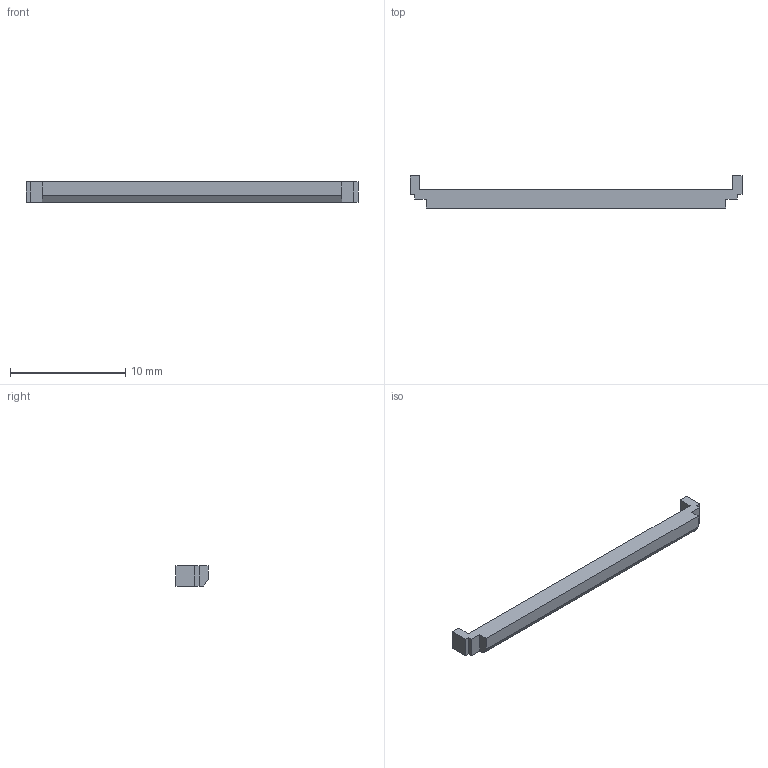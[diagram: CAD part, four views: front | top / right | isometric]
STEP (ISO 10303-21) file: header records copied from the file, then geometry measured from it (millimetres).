
FILE_DESCRIPTION(('Open CASCADE Model'),'2;1');
FILE_NAME('Open CASCADE Shape Model','2026-09-30T21:50:24',('Author'),( 'Open CASCADE'),'Open CASCADE STEP processor 7.9','Open CASCADE 7.9' ,'Unknown');
FILE_SCHEMA(('AUTOMOTIVE_DESIGN { 1 0 10303 214 1 1 1 1 }'));
Length unit declared in the file: millimetre
Products named in the file (1): Open CASCADE STEP translator 7.9 4
Bounding box: 28.8 x 2.78 x 1.75 mm (x, y, z)
Volume: 75.6 mm3; surface area: 197.3 mm2
Topology: 1 solids, 1 shells, 19 faces, 51 edges, 34 vertices
Faces by surface type: plane 19
Entity records: 1247 total; most frequent: CARTESIAN_POINT 218, DIRECTION 182, LINE 142, VECTOR 142, ORIENTED_EDGE 102, PCURVE 102, DEFINITIONAL_REPRESENTATION 102, EDGE_CURVE 51
